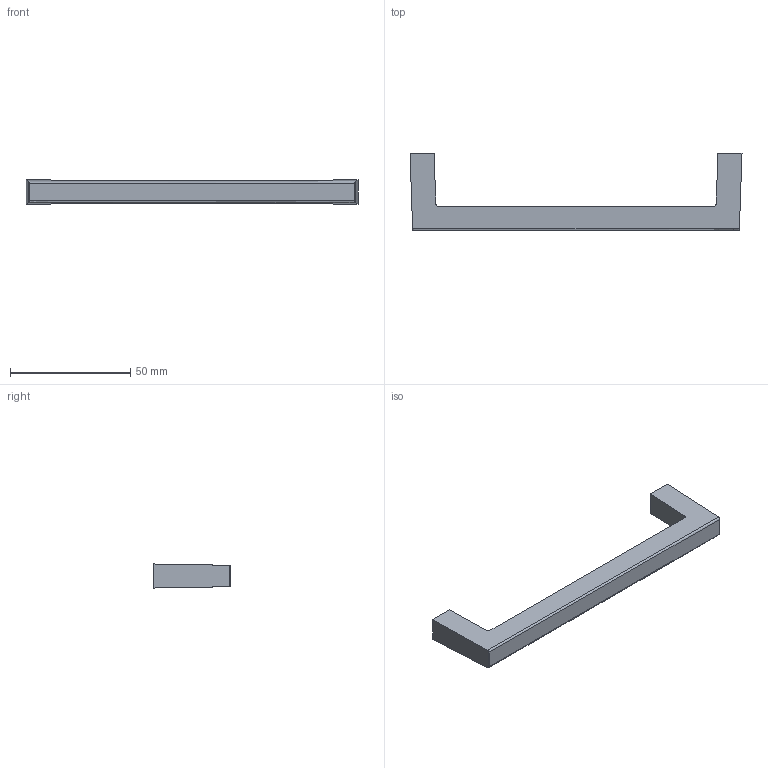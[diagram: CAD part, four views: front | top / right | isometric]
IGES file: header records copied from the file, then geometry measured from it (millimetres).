
Start section: Data from Parasolid IGES Translator 20.0.26, Copyright(c) 2006 Siemens P LM Software. All Rights Reserved.
Global section: file name: 9112938.igs; native system: By Siemens PLM Incorporated; preprocessor: XPlus GENERIC/IGES 20.0.26; author: Noname; organization: Noname; date: 20211115.183441; units: millimetre
Bounding box: 138 x 32 x 10 mm (x, y, z)
Surface area: 7219.4 mm2 (no closed solid volume)
Topology: 0 solids, 0 shells, 20 faces, 96 edges, 94 vertices
Faces by surface type: extrusion 12, revolution 8
